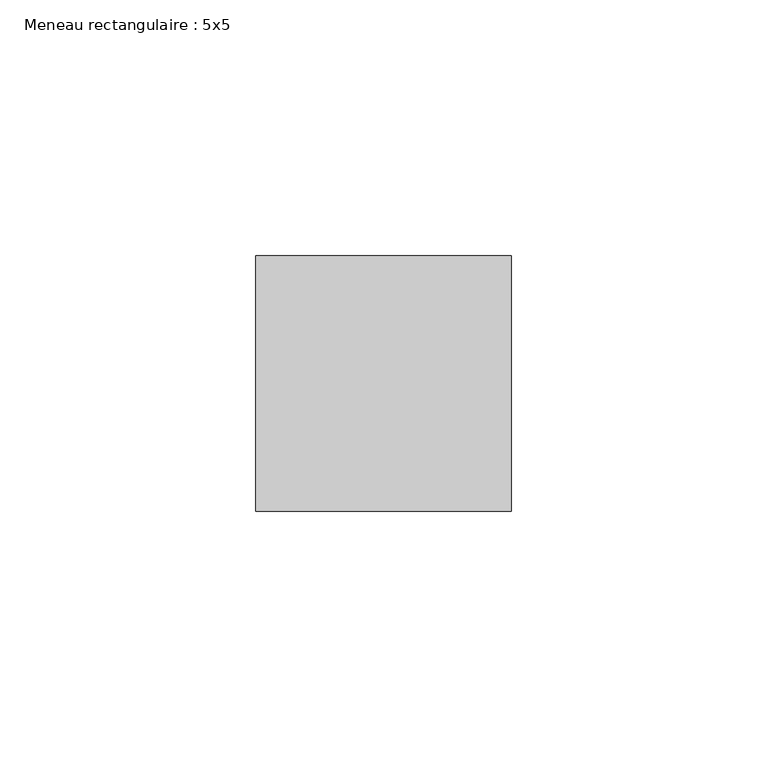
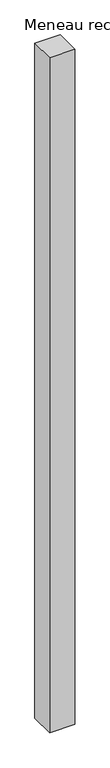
"""IFC4 building model written with IfcOpenShell, lengths in millimetres: member geometry, Meneau rectangulaire : 5x5."""

from ifc_helpers import new_model, si_unit, frame, origin, place, context, project, spatial, polyline, outline, extrude, source, transform, mapped, element, save


def meneau_rectangulaire_5x5_4e18e355(model_context):
    return source(origin(), model_context, "Body", "SweptSolid", [
        extrude(outline(polyline([(0.0, 25.0), (0.0, -25.0), (-50.0, -25.0), (-50.0, 25.0), (0.0, 25.0)])), frame((0.0, 0.0, -1406.9166667), z_axis=(0.0, 0.0, 1.0), x_axis=(1.0, 0.0, 0.0)), (0.0, 0.0, 1.0), 1406.9166667),
    ])


if __name__ == "__main__":
    model = new_model("IFC4")
    model_context = context("Model", 3, world=origin())
    ifc_project = project(units=[si_unit("LENGTHUNIT", "METRE", prefix="MILLI")], contexts=[model_context])
    site = spatial("IfcSite", under=ifc_project)
    building = spatial("IfcBuilding", under=site)
    placement = place(None, origin())
    meneau_rectangulaire_5x5_shape = meneau_rectangulaire_5x5_4e18e355(model_context)
    element("IfcMember", 1, ObjectType="Meneau rectangulaire : 5x5", at=placement, inside=building, context=model_context, shape_type="MappedRepresentation", body=[
        mapped(meneau_rectangulaire_5x5_shape, transform((0.0, 0.0, 0.0), x_axis=(1.0, 0.0, 0.0), y_axis=(0.0, 1.0, 0.0), z_axis=(0.0, 0.0, 1.0))),
    ])
    save(model, "model.ifc")
